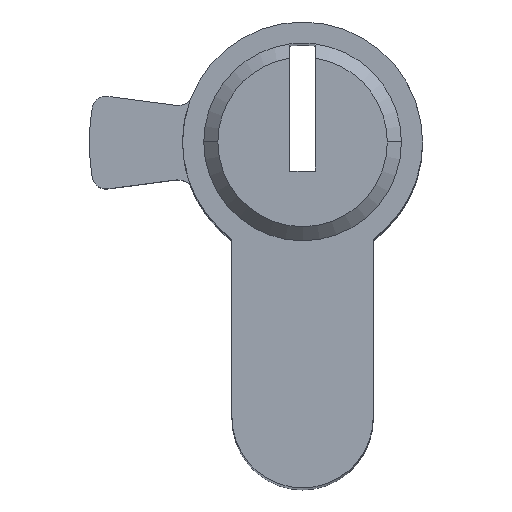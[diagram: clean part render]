
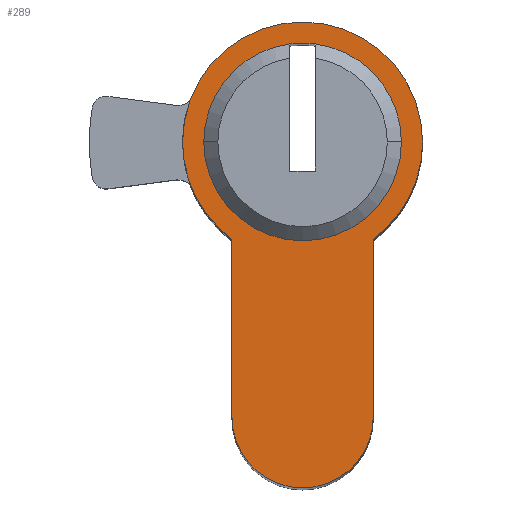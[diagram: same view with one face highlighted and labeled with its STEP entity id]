
A CAD part, top view. The second image highlights one B-rep face of the part: STEP entity #289.
In plain terms, the highlighted planar face has unit normal (0, 0, 1).
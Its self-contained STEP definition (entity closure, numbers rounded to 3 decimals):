
#29 = AXIS2_PLACEMENT_3D ( 'NONE', #106, #819, #1324 ) ;
#48 = EDGE_LOOP ( 'NONE', ( #1753, #1771, #1283, #991 ) ) ;
#87 = DIRECTION ( 'NONE',  ( 0., 0., 1. ) ) ;
#95 = EDGE_CURVE ( 'NONE', #113, #1517, #486, .T. ) ;
#98 = CARTESIAN_POINT ( 'NONE',  ( 8.5, 0., 30. ) ) ;
#106 = CARTESIAN_POINT ( 'NONE',  ( 0., 0., 30. ) ) ;
#113 = VERTEX_POINT ( 'NONE', #1537 ) ;
#124 = ORIENTED_EDGE ( 'NONE', *, *, #847, .T. ) ;
#201 = CARTESIAN_POINT ( 'NONE',  ( 0., -19.5, 30. ) ) ;
#226 = CIRCLE ( 'NONE', #311, 8.5 ) ;
#234 = DIRECTION ( 'NONE',  ( 0., 0., 1. ) ) ;
#256 = CARTESIAN_POINT ( 'NONE',  ( 0., 0., 30. ) ) ;
#274 = EDGE_CURVE ( 'NONE', #977, #1108, #1483, .T. ) ;
#289 = ADVANCED_FACE ( 'NONE', ( #803, #532 ), #1075, .T. ) ;
#291 = DIRECTION ( 'NONE',  ( 0., 0., 1. ) ) ;
#294 = CARTESIAN_POINT ( 'NONE',  ( -0.9, 6.942, 30. ) ) ;
#311 = AXIS2_PLACEMENT_3D ( 'NONE', #1516, #291, #685 ) ;
#319 = CARTESIAN_POINT ( 'NONE',  ( -5., -19.5, 30. ) ) ;
#363 = DIRECTION ( 'NONE',  ( 0., 0., 1. ) ) ;
#367 = DIRECTION ( 'NONE',  ( 0., 0., 1. ) ) ;
#370 = VECTOR ( 'NONE', #1574, 1000. ) ;
#394 = VECTOR ( 'NONE', #661, 1000. ) ;
#405 = EDGE_LOOP ( 'NONE', ( #1432, #1427, #1580, #1534, #124, #564 ) ) ;
#430 = VERTEX_POINT ( 'NONE', #1104 ) ;
#450 = EDGE_CURVE ( 'NONE', #1108, #1478, #720, .T. ) ;
#460 = CIRCLE ( 'NONE', #1429, 7. ) ;
#486 = LINE ( 'NONE', #1155, #370 ) ;
#491 = AXIS2_PLACEMENT_3D ( 'NONE', #256, #367, #675 ) ;
#529 = CARTESIAN_POINT ( 'NONE',  ( 0., 0., 30. ) ) ;
#532 = FACE_OUTER_BOUND ( 'NONE', #405, .T. ) ;
#536 = CARTESIAN_POINT ( 'NONE',  ( 5., -19.5, 30. ) ) ;
#559 = VERTEX_POINT ( 'NONE', #98 ) ;
#563 = EDGE_CURVE ( 'NONE', #1210, #1069, #1473, .T. ) ;
#564 = ORIENTED_EDGE ( 'NONE', *, *, #563, .T. ) ;
#572 = AXIS2_PLACEMENT_3D ( 'NONE', #1133, #866, #901 ) ;
#589 = EDGE_CURVE ( 'NONE', #1069, #559, #633, .T. ) ;
#629 = CARTESIAN_POINT ( 'NONE',  ( 5., -6.874, 30. ) ) ;
#633 = CIRCLE ( 'NONE', #1624, 8.5 ) ;
#661 = DIRECTION ( 'NONE',  ( 0., 1., 0. ) ) ;
#671 = DIRECTION ( 'NONE',  ( 1., 0., 0. ) ) ;
#675 = DIRECTION ( 'NONE',  ( 1., 0., 0. ) ) ;
#685 = DIRECTION ( 'NONE',  ( 1., 0., 0. ) ) ;
#720 = CIRCLE ( 'NONE', #572, 7. ) ;
#723 = AXIS2_PLACEMENT_3D ( 'NONE', #201, #1020, #751 ) ;
#751 = DIRECTION ( 'NONE',  ( 1., 0., 0. ) ) ;
#801 = CARTESIAN_POINT ( 'NONE',  ( 5., -19.5, 30. ) ) ;
#803 = FACE_BOUND ( 'NONE', #48, .T. ) ;
#819 = DIRECTION ( 'NONE',  ( 0., 0., 1. ) ) ;
#822 = VERTEX_POINT ( 'NONE', #1550 ) ;
#847 = EDGE_CURVE ( 'NONE', #1517, #1210, #1451, .T. ) ;
#860 = AXIS2_PLACEMENT_3D ( 'NONE', #915, #1487, #671 ) ;
#866 = DIRECTION ( 'NONE',  ( 0., 0., 1. ) ) ;
#901 = DIRECTION ( 'NONE',  ( 1., 0., 0. ) ) ;
#915 = CARTESIAN_POINT ( 'NONE',  ( 0., 0., 30. ) ) ;
#965 = CARTESIAN_POINT ( 'NONE',  ( 0.9, 6.942, 30. ) ) ;
#977 = VERTEX_POINT ( 'NONE', #1207 ) ;
#985 = EDGE_CURVE ( 'NONE', #822, #977, #460, .T. ) ;
#991 = ORIENTED_EDGE ( 'NONE', *, *, #1669, .F. ) ;
#1020 = DIRECTION ( 'NONE',  ( 0., 0., 1. ) ) ;
#1069 = VERTEX_POINT ( 'NONE', #629 ) ;
#1075 = PLANE ( 'NONE',  #29 ) ;
#1104 = CARTESIAN_POINT ( 'NONE',  ( -8.5, 0., 30. ) ) ;
#1108 = VERTEX_POINT ( 'NONE', #965 ) ;
#1133 = CARTESIAN_POINT ( 'NONE',  ( 0., 0., 30. ) ) ;
#1155 = CARTESIAN_POINT ( 'NONE',  ( -5., -6.874, 30. ) ) ;
#1190 = CARTESIAN_POINT ( 'NONE',  ( 0., 0., 30. ) ) ;
#1195 = DIRECTION ( 'NONE',  ( 1., 0., 0. ) ) ;
#1201 = AXIS2_PLACEMENT_3D ( 'NONE', #529, #363, #1739 ) ;
#1207 = CARTESIAN_POINT ( 'NONE',  ( 7., 0., 30. ) ) ;
#1210 = VERTEX_POINT ( 'NONE', #536 ) ;
#1283 = ORIENTED_EDGE ( 'NONE', *, *, #985, .F. ) ;
#1324 = DIRECTION ( 'NONE',  ( 1., 0., 0. ) ) ;
#1343 = DIRECTION ( 'NONE',  ( 1., 0., 0. ) ) ;
#1377 = CIRCLE ( 'NONE', #1201, 8.5 ) ;
#1427 = ORIENTED_EDGE ( 'NONE', *, *, #1746, .T. ) ;
#1429 = AXIS2_PLACEMENT_3D ( 'NONE', #1190, #87, #1195 ) ;
#1432 = ORIENTED_EDGE ( 'NONE', *, *, #589, .T. ) ;
#1451 = CIRCLE ( 'NONE', #723, 5. ) ;
#1473 = LINE ( 'NONE', #801, #394 ) ;
#1478 = VERTEX_POINT ( 'NONE', #294 ) ;
#1483 = CIRCLE ( 'NONE', #491, 7. ) ;
#1487 = DIRECTION ( 'NONE',  ( 0., 0., 1. ) ) ;
#1516 = CARTESIAN_POINT ( 'NONE',  ( 0., 0., 30. ) ) ;
#1517 = VERTEX_POINT ( 'NONE', #319 ) ;
#1534 = ORIENTED_EDGE ( 'NONE', *, *, #95, .T. ) ;
#1537 = CARTESIAN_POINT ( 'NONE',  ( -5., -6.874, 30. ) ) ;
#1550 = CARTESIAN_POINT ( 'NONE',  ( -7., 0., 30. ) ) ;
#1574 = DIRECTION ( 'NONE',  ( 0., -1., 0. ) ) ;
#1580 = ORIENTED_EDGE ( 'NONE', *, *, #1653, .T. ) ;
#1581 = CARTESIAN_POINT ( 'NONE',  ( 0., 0., 30. ) ) ;
#1608 = CIRCLE ( 'NONE', #860, 7. ) ;
#1624 = AXIS2_PLACEMENT_3D ( 'NONE', #1581, #234, #1343 ) ;
#1653 = EDGE_CURVE ( 'NONE', #430, #113, #1377, .T. ) ;
#1669 = EDGE_CURVE ( 'NONE', #1478, #822, #1608, .T. ) ;
#1739 = DIRECTION ( 'NONE',  ( 1., 0., 0. ) ) ;
#1746 = EDGE_CURVE ( 'NONE', #559, #430, #226, .T. ) ;
#1753 = ORIENTED_EDGE ( 'NONE', *, *, #450, .F. ) ;
#1771 = ORIENTED_EDGE ( 'NONE', *, *, #274, .F. ) ;
